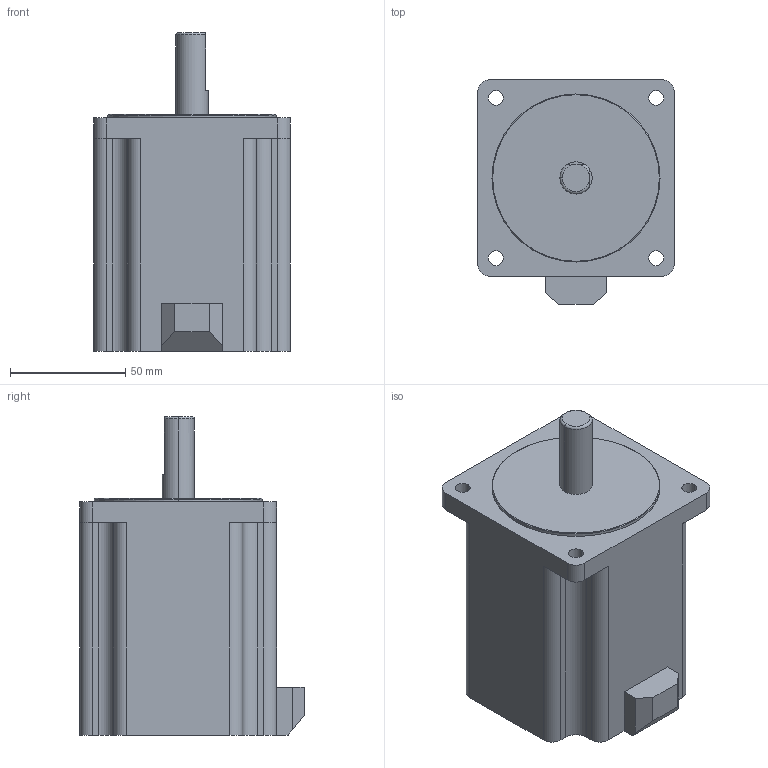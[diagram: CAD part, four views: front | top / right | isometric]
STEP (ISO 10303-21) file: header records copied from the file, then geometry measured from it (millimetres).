
FILE_DESCRIPTION (( 'STEP AP203' ), '1' );
FILE_NAME ('PMSA-B86D3H_3D.STEP', '2016-12-02T03:51:12', ( 'user01' ), ( '' ), 'SwSTEP 2.0', 'SolidWorks 2014', '' );
FILE_SCHEMA (( 'CONFIG_CONTROL_DESIGN' ));
Length unit declared in the file: millimetre
Products named in the file (1): PMSA-B86D3H_3D
Bounding box: 85.5 x 97.5 x 138.5 mm (x, y, z)
Volume: 675403.5 mm3; surface area: 51263.8 mm2
Topology: 1 solids, 2 shells, 70 faces, 187 edges, 123 vertices
Faces by surface type: plane 33, cylinder 30, cone 4, torus 3
Entity records: 2360 total; most frequent: CARTESIAN_POINT 449, DIRECTION 399, ORIENTED_EDGE 374, EDGE_CURVE 187, AXIS2_PLACEMENT_3D 145, VERTEX_POINT 123, LINE 109, VECTOR 109
